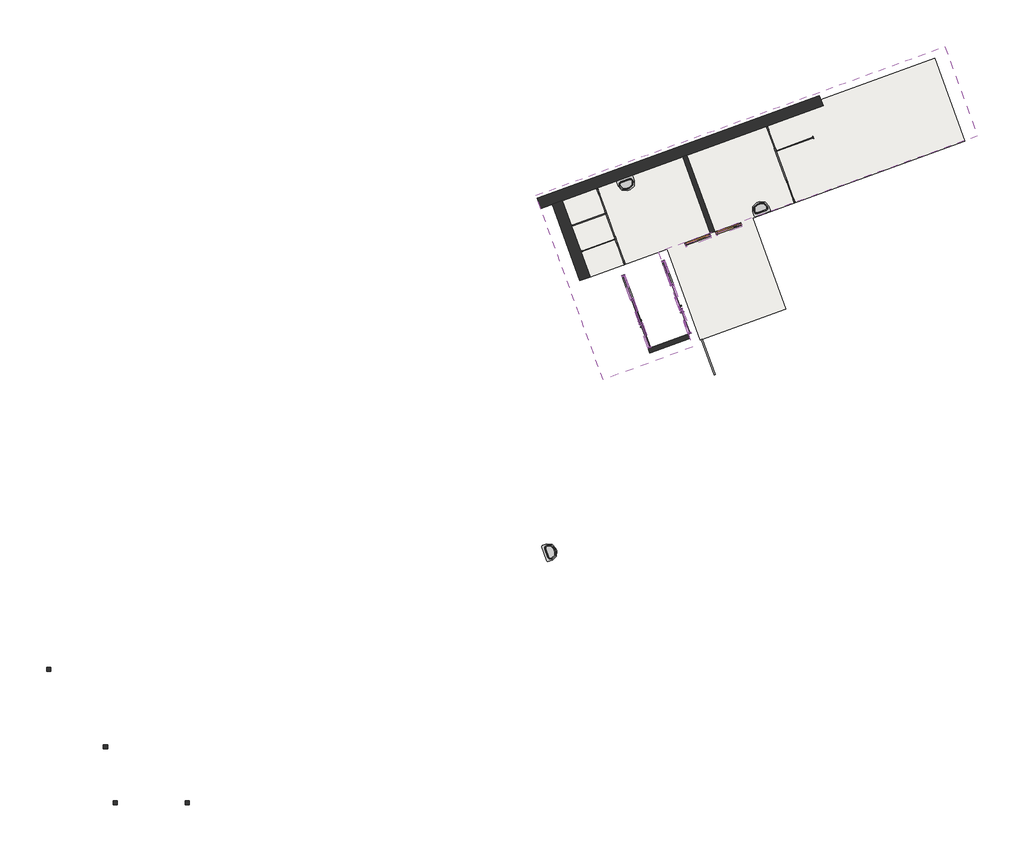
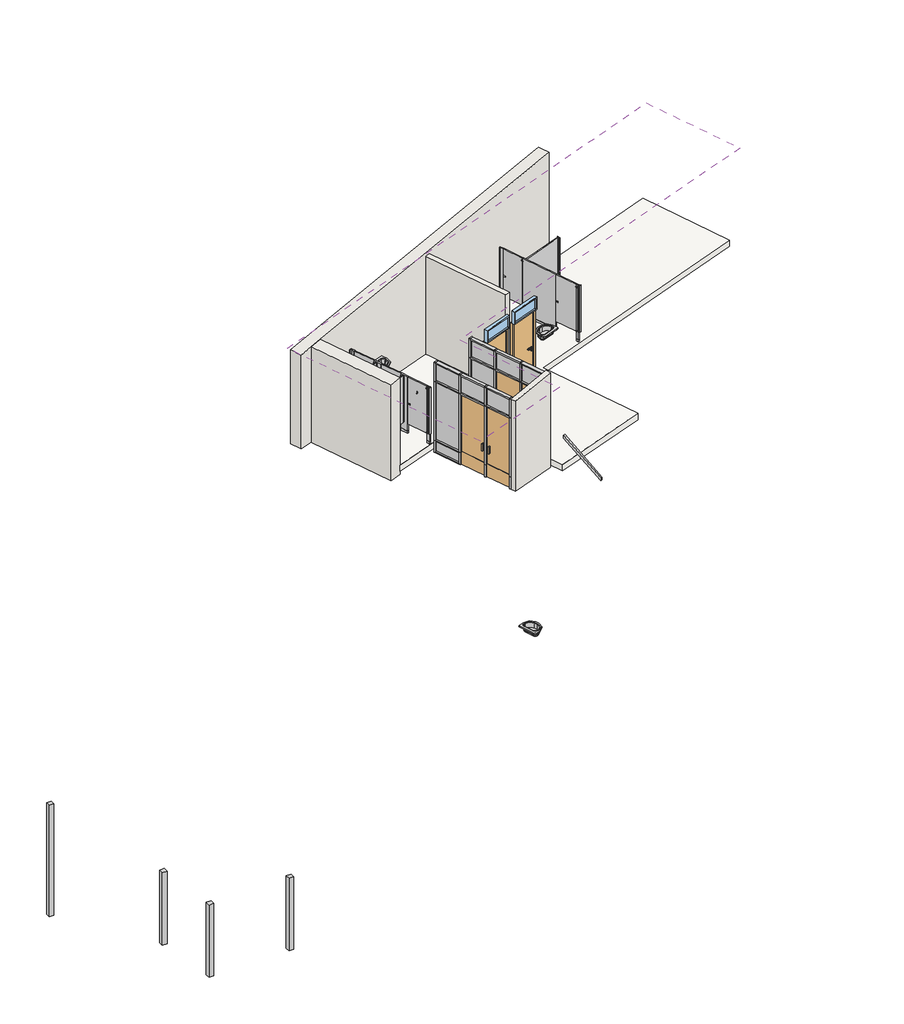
# One storey, incomplete: 40 members, 10 plates, 7 doors, 4 columns, 4 walls, 3 flow terminals, 2 proxies, 2 windows, 3 other elements.
"""IFC4 building model written with IfcOpenShell, lengths in millimetres."""

from ifc_helpers import new_model, si_unit, frame, origin, place, context, project, spatial, polyline, outline, extrude, faceted_brep, transform, mapped, element, save
from components import specialty_equipment_733fec99, specialty_equipment_17d1b64b, column_140x140_54508cc6, door_c31702a9, door_9x21_0ca1f15c, door_9x21_3038e881, m_curtain_wall_sgl_glass_m_curtain_wall_sgl_glass_a16a0dba, m_curtain_wall_sgl_glass_m_curtain_wall_sgl_glass_40f2f05e, flow_terminal_56x42_ddd7e4ea, flow_terminal_56x42_dcce3b80, flow_terminal_56x42_63f2d4de, rectangular_mullion_100x40_3ba3ef1f, rectangular_mullion_100x40_3ba05631, rectangular_mullion_100x40_46924800, rectangular_mullion_100x40_bf89f555, rectangular_mullion_100x40_653e2f27, rectangular_mullion_100x40_58357604, rectangular_mullion_100x40_4d7d8277, rectangular_mullion_100x40_423daf98, rectangular_mullion_100x40_f53edade, rectangular_mullion_100x40_9dc0828d, system_panel_glazed_4b31ab0a, system_panel_glazed_92b3d4ac, system_panel_glazed_41f18cd1, system_panel_solid_5c81e5c3, railing_1_5b98b4d4, window_9x4_a0d7365a, window_9x4_84f952e1

model = new_model("IFC4")

# Units and contexts
model_context = context("Model", 3, world=origin())
ifc_project = project(units=[si_unit("LENGTHUNIT", "METRE", prefix="MILLI")], contexts=[model_context])

# Site, building, storey
site = spatial("IfcSite", under=ifc_project)
building = spatial("IfcBuilding", under=site)
storey = spatial("IfcBuildingStorey", under=building, Name="0.9 inngangsparti tilbygg", Elevation=2430.0)

# Proxies
placement = place(None, origin())
specialty_equipment_shape = specialty_equipment_733fec99(model_context)
element("IfcBuildingElementProxy", 1, Name="Partition-Floor_Braced-Bradley_Corp-Enamel-ADA-N_Stalls : ADA (optional) + n Standard Stalls", ObjectType="Partition-Floor_Braced-Bradley_Corp-Enamel-ADA-N_Stalls : ADA (optional) + n Standard Stalls", at=placement, inside=storey, context=model_context, shape_type="MappedRepresentation", body=[
    mapped(specialty_equipment_shape, transform((13894.1298047, 28006.5902282, 2430.0), x_axis=(-0.3420201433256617, 0.939692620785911, 0.0), y_axis=(-0.939692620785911, -0.3420201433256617, 0.0), z_axis=(0.0, 0.0, 1.0))),
])
specialty_equipment_2_shape = specialty_equipment_17d1b64b(model_context)
element("IfcBuildingElementProxy", 2, Name="Partition-Floor_Braced-Bradley_Corp-Enamel-ADA-N_Stalls : ADA (optional) + n Standard Stalls", ObjectType="Partition-Floor_Braced-Bradley_Corp-Enamel-ADA-N_Stalls : ADA (optional) + n Standard Stalls", at=placement, inside=storey, context=model_context, shape_type="MappedRepresentation", body=[
    mapped(specialty_equipment_2_shape, transform((21863.7403131, 30907.2912319, 2430.0), x_axis=(-0.34202014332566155, 0.939692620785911, 0.0), y_axis=(-0.939692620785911, -0.34202014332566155, 0.0), z_axis=(0.0, 0.0, 1.0))),
])

# Columns
element("IfcColumn", 3, ObjectType="Søyle Tre Limtre : 140x140", at=placement, inside=storey, context=model_context, shape_type="SweptSolid", body=[
    extrude(outline(polyline([(-2073.5774456, 12628.8643675), (-2213.5774456, 12628.8643675), (-2213.5774456, 12768.8643675), (-2073.5774456, 12768.8643675), (-2073.5774456, 12628.8643675)])), frame((0.0, 0.0, 2430.0), z_axis=(0.0, 0.0, 1.0), x_axis=(1.0, 0.0, 0.0)), (0.0, 0.0, 1.0), 2270.0),
])
element("IfcColumn", 4, ObjectType="Søyle Tre Limtre : 140x140", at=placement, inside=storey, context=model_context, shape_type="SweptSolid", body=[
    extrude(outline(polyline([(620.1430175, 10778.5474976), (480.1430175, 10778.5474976), (480.1430175, 10918.5474976), (620.1430175, 10918.5474976), (620.1430175, 10778.5474976)])), frame((0.0, 0.0, 2430.0), z_axis=(0.0, 0.0, 1.0), x_axis=(1.0, 0.0, 0.0)), (0.0, 0.0, 1.0), 2270.0),
])
element("IfcColumn", 5, ObjectType="Søyle Tre Limtre : 140x140", at=placement, inside=storey, context=model_context, shape_type="SweptSolid", body=[
    extrude(outline(polyline([(-3949.7130781, 15180.0), (-4089.7130781, 15180.0), (-4089.7130781, 15320.0), (-3949.7130781, 15320.0), (-3949.7130781, 15180.0)])), frame((0.0, 0.0, 2430.0), z_axis=(0.0, 0.0, 1.0), x_axis=(1.0, 0.0, 0.0)), (0.0, 0.0, 1.0), 3490.0),
])
column_140x140_shape = column_140x140_54508cc6(model_context)
element("IfcColumn", 6, ObjectType="Søyle Tre Limtre : 140x140", at=placement, inside=storey, context=model_context, shape_type="MappedRepresentation", body=[
    mapped(column_140x140_shape, transform((-1817.1065315, 10850.8618967, 0.0), x_axis=(1.0, 0.0, 0.0), y_axis=(0.0, 1.0, 0.0), z_axis=(0.0, 0.0, 1.0))),
])

# Doors
door_shape = door_c31702a9(model_context)
element("IfcDoor", 7, ObjectType="brystning ytterdør : brystning ytterdør", at=placement, inside=storey, context=model_context, shape_type="MappedRepresentation", body=[
    mapped(door_shape, transform((0.0, 0.0, 0.0), x_axis=(1.0, 0.0, 0.0), y_axis=(0.0, 1.0, 0.0), z_axis=(0.0, 0.0, 1.0))),
])
door_9x21_shape = door_9x21_0ca1f15c(model_context)
element("IfcDoor", 8, ObjectType="Innerdør Slett (Diplomat) : 9x21", at=placement, inside=storey, context=model_context, shape_type="MappedRepresentation", body=[
    mapped(door_9x21_shape, transform((17454.657411, 29346.0414371, 2430.0), x_axis=(-0.9396926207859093, -0.3420201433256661, 0.0), y_axis=(0.3420201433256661, -0.9396926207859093, 0.0), z_axis=(0.0, 0.0, 1.0))),
])
door_9x21_2_shape = door_9x21_3038e881(model_context)
element("IfcDoor", 9, ObjectType="Innerdør Slett (Diplomat) : 9x21", at=placement, inside=storey, context=model_context, shape_type="MappedRepresentation", body=[
    mapped(door_9x21_2_shape, transform((18369.2045469, 29678.9093724, 2430.0), x_axis=(0.9396926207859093, 0.3420201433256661, 0.0), y_axis=(-0.3420201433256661, 0.9396926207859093, 0.0), z_axis=(0.0, 0.0, 1.0))),
])
m_curtain_wall_sgl_glass_m_curtain_wall_sgl_glass_shape = m_curtain_wall_sgl_glass_m_curtain_wall_sgl_glass_a16a0dba(model_context)
element("IfcDoor", 10, ObjectType="M_Curtain Wall Sgl Glass : M_Curtain Wall Sgl Glass", at=placement, inside=storey, context=model_context, shape_type="MappedRepresentation", body=[
    mapped(m_curtain_wall_sgl_glass_m_curtain_wall_sgl_glass_shape, transform((15640.0160225, 26252.1461461, 2430.0), x_axis=(0.3420201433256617, -0.939692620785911, 0.0), y_axis=(0.939692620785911, 0.3420201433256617, 0.0), z_axis=(0.0, 0.0, 1.0))),
])
element("IfcDoor", 11, ObjectType="M_Curtain Wall Sgl Glass : M_Curtain Wall Sgl Glass", at=placement, inside=storey, context=model_context, shape_type="MappedRepresentation", body=[
    mapped(m_curtain_wall_sgl_glass_m_curtain_wall_sgl_glass_shape, transform((16955.5856916, 26730.9743467, 2430.0), x_axis=(0.3420201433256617, -0.939692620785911, 0.0), y_axis=(0.939692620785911, 0.3420201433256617, 0.0), z_axis=(0.0, 0.0, 1.0))),
])
m_curtain_wall_sgl_glass_m_curtain_wall_sgl_glass_2_shape = m_curtain_wall_sgl_glass_m_curtain_wall_sgl_glass_40f2f05e(model_context)
element("IfcDoor", 12, ObjectType="M_Curtain Wall Sgl Glass : M_Curtain Wall Sgl Glass", at=placement, inside=storey, context=model_context, shape_type="MappedRepresentation", body=[
    mapped(m_curtain_wall_sgl_glass_m_curtain_wall_sgl_glass_2_shape, transform((15350.4389678, 27047.752565, 2430.0), x_axis=(-0.3420201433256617, 0.939692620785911, 0.0), y_axis=(-0.939692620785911, -0.3420201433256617, 0.0), z_axis=(0.0, 0.0, 1.0))),
])
element("IfcDoor", 13, ObjectType="M_Curtain Wall Sgl Glass : M_Curtain Wall Sgl Glass", at=placement, inside=storey, context=model_context, shape_type="MappedRepresentation", body=[
    mapped(m_curtain_wall_sgl_glass_m_curtain_wall_sgl_glass_2_shape, transform((16666.0086369, 27526.5807656, 2430.0), x_axis=(-0.3420201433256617, 0.939692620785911, 0.0), y_axis=(-0.939692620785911, -0.3420201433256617, 0.0), z_axis=(0.0, 0.0, 1.0))),
])

# Flow terminals
flow_terminal_56x42_shape = flow_terminal_56x42_ddd7e4ea(model_context)
element("IfcFlowTerminal", 14, ObjectType="Sanitær Servant Løs : 56x42", at=placement, inside=storey, context=model_context, shape_type="MappedRepresentation", body=[
    mapped(flow_terminal_56x42_shape, transform((12224.3529657, 19146.4368633, 2430.0), x_axis=(0.34202014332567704, -0.9396926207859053, 0.0), y_axis=(0.9396926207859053, 0.34202014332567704, 0.0), z_axis=(0.0, 0.0, 1.0))),
])
flow_terminal_56x42_2_shape = flow_terminal_56x42_dcce3b80(model_context)
element("IfcFlowTerminal", 15, ObjectType="Sanitær Servant Løs : 56x42", at=placement, inside=storey, context=model_context, shape_type="MappedRepresentation", body=[
    mapped(flow_terminal_56x42_2_shape, transform((14996.9284998, 31659.9972535, 2430.0), x_axis=(-0.9396926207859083, -0.342020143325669, 0.0), y_axis=(0.342020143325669, -0.9396926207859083, 0.0), z_axis=(0.0, 0.0, 1.0))),
])
flow_terminal_56x42_3_shape = flow_terminal_56x42_63f2d4de(model_context)
element("IfcFlowTerminal", 16, ObjectType="Sanitær Servant Løs : 56x42", at=placement, inside=storey, context=model_context, shape_type="MappedRepresentation", body=[
    mapped(flow_terminal_56x42_3_shape, transform((19452.7549195, 30073.2894553, 2430.0), x_axis=(0.9396926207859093, 0.3420201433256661, 0.0), y_axis=(-0.3420201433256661, 0.9396926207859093, 0.0), z_axis=(0.0, 0.0, 1.0))),
])

# Members
rectangular_mullion_100x40_shape = rectangular_mullion_100x40_3ba3ef1f(model_context)
element("IfcMember", 17, ObjectType="Rectangular Mullion : 100x40", at=placement, inside=storey, context=model_context, shape_type="MappedRepresentation", body=[
    mapped(rectangular_mullion_100x40_shape, transform((14924.6238894, 28217.6698779, 5254.5549543), x_axis=(0.0, 0.0, 1.0), y_axis=(0.939692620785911, 0.3420201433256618, 0.0), z_axis=(-0.3420201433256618, 0.939692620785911, 0.0))),
])
element("IfcMember", 18, ObjectType="Rectangular Mullion : 100x40", at=placement, inside=storey, context=model_context, shape_type="MappedRepresentation", body=[
    mapped(rectangular_mullion_100x40_shape, transform((15503.7779988, 26626.45704, 5254.5549543), x_axis=(0.0, 0.0, 1.0), y_axis=(0.9396926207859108, 0.34202014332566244, 0.0), z_axis=(-0.3420201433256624, 0.9396926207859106, 0.0))),
])
element("IfcMember", 19, ObjectType="Rectangular Mullion : 100x40", at=placement, inside=storey, context=model_context, shape_type="MappedRepresentation", body=[
    mapped(rectangular_mullion_100x40_shape, transform((16240.1935585, 28696.4980785, 5254.5549543), x_axis=(0.0, 0.0, 1.0), y_axis=(0.939692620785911, 0.3420201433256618, 0.0), z_axis=(-0.3420201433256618, 0.939692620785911, 0.0))),
])
element("IfcMember", 20, ObjectType="Rectangular Mullion : 100x40", at=placement, inside=storey, context=model_context, shape_type="MappedRepresentation", body=[
    mapped(rectangular_mullion_100x40_shape, transform((16819.3476679, 27105.2852407, 5254.5549543), x_axis=(0.0, 0.0, 1.0), y_axis=(0.9396926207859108, 0.34202014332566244, 0.0), z_axis=(-0.3420201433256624, 0.9396926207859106, 0.0))),
])
element("IfcMember", 21, ObjectType="Rectangular Mullion : 100x40", at=placement, inside=storey, context=model_context, shape_type="MappedRepresentation", body=[
    mapped(rectangular_mullion_100x40_shape, transform((15197.0999369, 27469.04809, 2430.0), x_axis=(0.0, 0.0, -1.0), y_axis=(0.939692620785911, 0.3420201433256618, 0.0), z_axis=(0.3420201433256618, -0.939692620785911, 0.0))),
])
element("IfcMember", 22, ObjectType="Rectangular Mullion : 100x40", at=placement, inside=storey, context=model_context, shape_type="MappedRepresentation", body=[
    mapped(rectangular_mullion_100x40_shape, transform((16512.669606, 27947.8762906, 2430.0), x_axis=(0.0, 0.0, -1.0), y_axis=(0.939692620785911, 0.3420201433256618, 0.0), z_axis=(0.3420201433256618, -0.939692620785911, 0.0))),
])
rectangular_mullion_100x40_2_shape = rectangular_mullion_100x40_3ba05631(model_context)
element("IfcMember", 23, ObjectType="Rectangular Mullion : 100x40", at=placement, inside=storey, context=model_context, shape_type="MappedRepresentation", body=[
    mapped(rectangular_mullion_100x40_2_shape, transform((15210.7807426, 27431.4603851, 5254.5549543), x_axis=(0.0, 0.0, 1.0), y_axis=(0.939692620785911, 0.3420201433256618, 0.0), z_axis=(-0.3420201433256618, 0.939692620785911, 0.0))),
])
element("IfcMember", 24, ObjectType="Rectangular Mullion : 100x40", at=placement, inside=storey, context=model_context, shape_type="MappedRepresentation", body=[
    mapped(rectangular_mullion_100x40_2_shape, transform((16526.3504117, 27910.2885858, 5254.5549543), x_axis=(0.0, 0.0, 1.0), y_axis=(0.939692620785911, 0.3420201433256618, 0.0), z_axis=(-0.3420201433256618, 0.939692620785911, 0.0))),
])
rectangular_mullion_100x40_3_shape = rectangular_mullion_100x40_46924800(model_context)
element("IfcMember", 25, ObjectType="Rectangular Mullion : 100x40", at=placement, inside=storey, context=model_context, shape_type="MappedRepresentation", body=[
    mapped(rectangular_mullion_100x40_3_shape, transform((15503.7779988, 26626.45704, 4654.5549543), x_axis=(0.0, 0.0, 1.0), y_axis=(0.9396926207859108, 0.34202014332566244, 0.0), z_axis=(-0.3420201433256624, 0.9396926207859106, 0.0))),
])
element("IfcMember", 26, ObjectType="Rectangular Mullion : 100x40", at=placement, inside=storey, context=model_context, shape_type="MappedRepresentation", body=[
    mapped(rectangular_mullion_100x40_3_shape, transform((14924.6238894, 28217.6698779, 4654.5549543), x_axis=(0.0, 0.0, 1.0), y_axis=(0.939692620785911, 0.3420201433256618, 0.0), z_axis=(-0.3420201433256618, 0.939692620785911, 0.0))),
])
element("IfcMember", 27, ObjectType="Rectangular Mullion : 100x40", at=placement, inside=storey, context=model_context, shape_type="MappedRepresentation", body=[
    mapped(rectangular_mullion_100x40_3_shape, transform((14924.6238894, 28217.6698779, 2810.0), x_axis=(0.0, 0.0, 1.0), y_axis=(0.939692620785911, 0.3420201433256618, 0.0), z_axis=(-0.3420201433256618, 0.939692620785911, 0.0))),
])
element("IfcMember", 28, ObjectType="Rectangular Mullion : 100x40", at=placement, inside=storey, context=model_context, shape_type="MappedRepresentation", body=[
    mapped(rectangular_mullion_100x40_3_shape, transform((16819.3476679, 27105.2852407, 4654.5549543), x_axis=(0.0, 0.0, 1.0), y_axis=(0.9396926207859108, 0.34202014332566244, 0.0), z_axis=(-0.3420201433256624, 0.9396926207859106, 0.0))),
])
element("IfcMember", 29, ObjectType="Rectangular Mullion : 100x40", at=placement, inside=storey, context=model_context, shape_type="MappedRepresentation", body=[
    mapped(rectangular_mullion_100x40_3_shape, transform((16240.1935585, 28696.4980785, 4654.5549543), x_axis=(0.0, 0.0, 1.0), y_axis=(0.939692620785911, 0.3420201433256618, 0.0), z_axis=(-0.3420201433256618, 0.939692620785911, 0.0))),
])
element("IfcMember", 30, ObjectType="Rectangular Mullion : 100x40", at=placement, inside=storey, context=model_context, shape_type="MappedRepresentation", body=[
    mapped(rectangular_mullion_100x40_3_shape, transform((16240.1935585, 28696.4980785, 2810.0), x_axis=(0.0, 0.0, 1.0), y_axis=(0.939692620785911, 0.3420201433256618, 0.0), z_axis=(-0.3420201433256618, 0.939692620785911, 0.0))),
])
rectangular_mullion_100x40_4_shape = rectangular_mullion_100x40_bf89f555(model_context)
element("IfcMember", 31, ObjectType="Rectangular Mullion : 100x40", at=placement, inside=storey, context=model_context, shape_type="MappedRepresentation", body=[
    mapped(rectangular_mullion_100x40_4_shape, transform((15210.7807426, 27431.4603851, 4654.5549543), x_axis=(0.0, 0.0, 1.0), y_axis=(0.939692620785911, 0.3420201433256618, 0.0), z_axis=(-0.3420201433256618, 0.939692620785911, 0.0))),
])
element("IfcMember", 32, ObjectType="Rectangular Mullion : 100x40", at=placement, inside=storey, context=model_context, shape_type="MappedRepresentation", body=[
    mapped(rectangular_mullion_100x40_4_shape, transform((16526.3504117, 27910.2885858, 4654.5549543), x_axis=(0.0, 0.0, 1.0), y_axis=(0.939692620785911, 0.3420201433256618, 0.0), z_axis=(-0.3420201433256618, 0.939692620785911, 0.0))),
])
rectangular_mullion_100x40_5_shape = rectangular_mullion_100x40_653e2f27(model_context)
element("IfcMember", 33, ObjectType="Rectangular Mullion : 100x40", at=placement, inside=storey, context=model_context, shape_type="MappedRepresentation", body=[
    mapped(rectangular_mullion_100x40_5_shape, transform((15496.9375959, 26645.2508924, 4654.5549543), x_axis=(-0.3420201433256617, 0.939692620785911, 0.0), y_axis=(0.939692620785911, 0.3420201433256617, 0.0), z_axis=(0.0, 0.0, -1.0))),
])
element("IfcMember", 34, ObjectType="Rectangular Mullion : 100x40", at=placement, inside=storey, context=model_context, shape_type="MappedRepresentation", body=[
    mapped(rectangular_mullion_100x40_5_shape, transform((15203.9403398, 27450.2542376, 4654.5549543), x_axis=(-0.3420201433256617, 0.939692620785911, 0.0), y_axis=(0.939692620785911, 0.3420201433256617, 0.0), z_axis=(0.0, 0.0, -1.0))),
])
element("IfcMember", 35, ObjectType="Rectangular Mullion : 100x40", at=placement, inside=storey, context=model_context, shape_type="MappedRepresentation", body=[
    mapped(rectangular_mullion_100x40_5_shape, transform((16812.507265, 27124.0790931, 4654.5549543), x_axis=(-0.3420201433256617, 0.939692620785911, 0.0), y_axis=(0.939692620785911, 0.3420201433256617, 0.0), z_axis=(0.0, 0.0, -1.0))),
])
element("IfcMember", 36, ObjectType="Rectangular Mullion : 100x40", at=placement, inside=storey, context=model_context, shape_type="MappedRepresentation", body=[
    mapped(rectangular_mullion_100x40_5_shape, transform((16519.5100089, 27929.0824382, 4654.5549543), x_axis=(-0.3420201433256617, 0.939692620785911, 0.0), y_axis=(0.939692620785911, 0.3420201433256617, 0.0), z_axis=(0.0, 0.0, -1.0))),
])
rectangular_mullion_100x40_6_shape = rectangular_mullion_100x40_58357604(model_context)
element("IfcMember", 37, ObjectType="Rectangular Mullion : 100x40", at=placement, inside=storey, context=model_context, shape_type="MappedRepresentation", body=[
    mapped(rectangular_mullion_100x40_6_shape, transform((15789.934852, 25840.2475473, 5254.5549543), x_axis=(0.3420201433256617, -0.939692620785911, 0.0), y_axis=(0.939692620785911, 0.3420201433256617, 0.0), z_axis=(0.0, 0.0, 1.0))),
])
element("IfcMember", 38, ObjectType="Rectangular Mullion : 100x40", at=placement, inside=storey, context=model_context, shape_type="MappedRepresentation", body=[
    mapped(rectangular_mullion_100x40_6_shape, transform((17105.5045211, 26319.0757479, 5254.5549543), x_axis=(0.3420201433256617, -0.939692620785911, 0.0), y_axis=(0.939692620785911, 0.3420201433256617, 0.0), z_axis=(0.0, 0.0, 1.0))),
])
element("IfcMember", 39, ObjectType="Rectangular Mullion : 100x40", at=placement, inside=storey, context=model_context, shape_type="MappedRepresentation", body=[
    mapped(rectangular_mullion_100x40_6_shape, transform((14910.9430837, 28255.2575827, 4654.5549543), x_axis=(-0.3420201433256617, 0.939692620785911, 0.0), y_axis=(0.939692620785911, 0.3420201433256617, 0.0), z_axis=(0.0, 0.0, -1.0))),
])
element("IfcMember", 40, ObjectType="Rectangular Mullion : 100x40", at=placement, inside=storey, context=model_context, shape_type="MappedRepresentation", body=[
    mapped(rectangular_mullion_100x40_6_shape, transform((16226.5127528, 28734.0857834, 4654.5549543), x_axis=(-0.3420201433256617, 0.939692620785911, 0.0), y_axis=(0.939692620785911, 0.3420201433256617, 0.0), z_axis=(0.0, 0.0, -1.0))),
])
rectangular_mullion_100x40_7_shape = rectangular_mullion_100x40_4d7d8277(model_context)
element("IfcMember", 41, ObjectType="Rectangular Mullion : 100x40", at=placement, inside=storey, context=model_context, shape_type="MappedRepresentation", body=[
    mapped(rectangular_mullion_100x40_7_shape, transform((15203.9403398, 27450.2542376, 2430.0), x_axis=(-0.3420201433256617, 0.939692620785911, 0.0), y_axis=(0.939692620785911, 0.3420201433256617, 0.0), z_axis=(0.0, 0.0, -1.0))),
])
element("IfcMember", 42, ObjectType="Rectangular Mullion : 100x40", at=placement, inside=storey, context=model_context, shape_type="MappedRepresentation", body=[
    mapped(rectangular_mullion_100x40_7_shape, transform((16519.5100089, 27929.0824382, 2430.0), x_axis=(-0.3420201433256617, 0.939692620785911, 0.0), y_axis=(0.939692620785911, 0.3420201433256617, 0.0), z_axis=(0.0, 0.0, -1.0))),
])
rectangular_mullion_100x40_8_shape = rectangular_mullion_100x40_423daf98(model_context)
element("IfcMember", 43, ObjectType="Rectangular Mullion : 100x40", at=placement, inside=storey, context=model_context, shape_type="MappedRepresentation", body=[
    mapped(rectangular_mullion_100x40_8_shape, transform((15203.9403398, 27450.2542376, 2810.0), x_axis=(-0.3420201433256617, 0.939692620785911, 0.0), y_axis=(0.939692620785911, 0.3420201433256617, 0.0), z_axis=(0.0, 0.0, -1.0))),
])
element("IfcMember", 44, ObjectType="Rectangular Mullion : 100x40", at=placement, inside=storey, context=model_context, shape_type="MappedRepresentation", body=[
    mapped(rectangular_mullion_100x40_8_shape, transform((16519.5100089, 27929.0824382, 2810.0), x_axis=(-0.3420201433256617, 0.939692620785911, 0.0), y_axis=(0.939692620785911, 0.3420201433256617, 0.0), z_axis=(0.0, 0.0, -1.0))),
])
rectangular_mullion_100x40_9_shape = rectangular_mullion_100x40_f53edade(model_context)
element("IfcMember", 45, ObjectType="Rectangular Mullion : 100x40", at=placement, inside=storey, context=model_context, shape_type="MappedRepresentation", body=[
    mapped(rectangular_mullion_100x40_9_shape, transform((14910.9430837, 28255.2575827, 2430.0), x_axis=(-0.3420201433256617, 0.939692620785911, 0.0), y_axis=(0.939692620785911, 0.3420201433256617, 0.0), z_axis=(0.0, 0.0, -1.0))),
])
element("IfcMember", 46, ObjectType="Rectangular Mullion : 100x40", at=placement, inside=storey, context=model_context, shape_type="MappedRepresentation", body=[
    mapped(rectangular_mullion_100x40_9_shape, transform((16226.5127528, 28734.0857834, 2430.0), x_axis=(-0.3420201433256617, 0.939692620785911, 0.0), y_axis=(0.939692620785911, 0.3420201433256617, 0.0), z_axis=(0.0, 0.0, -1.0))),
])
rectangular_mullion_100x40_10_shape = rectangular_mullion_100x40_9dc0828d(model_context)
element("IfcMember", 47, ObjectType="Rectangular Mullion : 100x40", at=placement, inside=storey, context=model_context, shape_type="MappedRepresentation", body=[
    mapped(rectangular_mullion_100x40_10_shape, transform((14910.9430837, 28255.2575827, 2810.0), x_axis=(-0.3420201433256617, 0.939692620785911, 0.0), y_axis=(0.939692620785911, 0.3420201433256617, 0.0), z_axis=(0.0, 0.0, -1.0))),
])
element("IfcMember", 48, ObjectType="Rectangular Mullion : 100x40", at=placement, inside=storey, context=model_context, shape_type="MappedRepresentation", body=[
    mapped(rectangular_mullion_100x40_10_shape, transform((16226.5127528, 28734.0857834, 2810.0), x_axis=(-0.3420201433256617, 0.939692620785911, 0.0), y_axis=(0.939692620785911, 0.3420201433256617, 0.0), z_axis=(0.0, 0.0, -1.0))),
])
element("IfcMember", 49, ObjectType="Rectangular Mullion : 100x40", at=placement, inside=storey, context=model_context, shape_type="MappedRepresentation", body=[
    mapped(rectangular_mullion_100x40_7_shape, transform((15496.9375959, 26645.2508924, 2430.0), x_axis=(-0.3420201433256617, 0.939692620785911, 0.0), y_axis=(0.939692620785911, 0.3420201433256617, 0.0), z_axis=(0.0, 0.0, -1.0))),
])
element("IfcMember", 50, ObjectType="Rectangular Mullion : 100x40", at=placement, inside=storey, context=model_context, shape_type="MappedRepresentation", body=[
    mapped(rectangular_mullion_100x40_7_shape, transform((16812.507265, 27124.0790931, 2430.0), x_axis=(-0.3420201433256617, 0.939692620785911, 0.0), y_axis=(0.939692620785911, 0.3420201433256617, 0.0), z_axis=(0.0, 0.0, -1.0))),
])
element("IfcMember", 51, ObjectType="Rectangular Mullion : 100x40", at=placement, inside=storey, context=model_context, shape_type="MappedRepresentation", body=[
    mapped(rectangular_mullion_100x40_8_shape, transform((15496.9375959, 26645.2508924, 2810.0), x_axis=(-0.3420201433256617, 0.939692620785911, 0.0), y_axis=(0.939692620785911, 0.3420201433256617, 0.0), z_axis=(0.0, 0.0, -1.0))),
])
element("IfcMember", 52, ObjectType="Rectangular Mullion : 100x40", at=placement, inside=storey, context=model_context, shape_type="MappedRepresentation", body=[
    mapped(rectangular_mullion_100x40_8_shape, transform((16812.507265, 27124.0790931, 2810.0), x_axis=(-0.3420201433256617, 0.939692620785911, 0.0), y_axis=(0.939692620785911, 0.3420201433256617, 0.0), z_axis=(0.0, 0.0, -1.0))),
])
element("IfcMember", 53, ObjectType="Rectangular Mullion : 100x40", at=placement, inside=storey, context=model_context, shape_type="MappedRepresentation", body=[
    mapped(rectangular_mullion_100x40_10_shape, transform((15789.934852, 25840.2475473, 4654.5549543), x_axis=(0.3420201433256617, -0.939692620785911, 0.0), y_axis=(0.939692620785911, 0.3420201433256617, 0.0), z_axis=(0.0, 0.0, 1.0))),
])
element("IfcMember", 54, ObjectType="Rectangular Mullion : 100x40", at=placement, inside=storey, context=model_context, shape_type="MappedRepresentation", body=[
    mapped(rectangular_mullion_100x40_10_shape, transform((17105.5045211, 26319.0757479, 4654.5549543), x_axis=(0.3420201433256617, -0.939692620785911, 0.0), y_axis=(0.939692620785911, 0.3420201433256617, 0.0), z_axis=(0.0, 0.0, 1.0))),
])
element("IfcMember", 55, ObjectType="Rectangular Mullion : 100x40", at=placement, inside=storey, context=model_context, shape_type="MappedRepresentation", body=[
    mapped(rectangular_mullion_100x40_9_shape, transform((15789.934852, 25840.2475473, 2810.0), x_axis=(0.3420201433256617, -0.939692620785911, 0.0), y_axis=(0.939692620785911, 0.3420201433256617, 0.0), z_axis=(0.0, 0.0, 1.0))),
])
element("IfcMember", 56, ObjectType="Rectangular Mullion : 100x40", at=placement, inside=storey, context=model_context, shape_type="MappedRepresentation", body=[
    mapped(rectangular_mullion_100x40_9_shape, transform((17105.5045211, 26319.0757479, 2810.0), x_axis=(0.3420201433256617, -0.939692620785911, 0.0), y_axis=(0.939692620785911, 0.3420201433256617, 0.0), z_axis=(0.0, 0.0, 1.0))),
])

# Plates
system_panel_glazed_shape = system_panel_glazed_4b31ab0a(model_context)
element("IfcPlate", 57, ObjectType="System Panel : Glazed", at=placement, inside=storey, context=model_context, shape_type="MappedRepresentation", body=[
    mapped(system_panel_glazed_shape, transform((15640.0160225, 26252.1461461, 4674.5549543), x_axis=(-0.3420201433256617, 0.939692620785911, 0.0), y_axis=(-0.939692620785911, -0.3420201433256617, 0.0), z_axis=(0.0, 0.0, 1.0))),
])
element("IfcPlate", 58, ObjectType="System Panel : Glazed", at=placement, inside=storey, context=model_context, shape_type="MappedRepresentation", body=[
    mapped(system_panel_glazed_shape, transform((15060.8619131, 27843.3589839, 4674.5549543), x_axis=(-0.3420201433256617, 0.939692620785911, 0.0), y_axis=(-0.939692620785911, -0.3420201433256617, 0.0), z_axis=(0.0, 0.0, 1.0))),
])
element("IfcPlate", 59, ObjectType="System Panel : Glazed", at=placement, inside=storey, context=model_context, shape_type="MappedRepresentation", body=[
    mapped(system_panel_glazed_shape, transform((16955.5856916, 26730.9743467, 4674.5549543), x_axis=(-0.3420201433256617, 0.939692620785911, 0.0), y_axis=(-0.939692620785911, -0.3420201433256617, 0.0), z_axis=(0.0, 0.0, 1.0))),
])
element("IfcPlate", 60, ObjectType="System Panel : Glazed", at=placement, inside=storey, context=model_context, shape_type="MappedRepresentation", body=[
    mapped(system_panel_glazed_shape, transform((16376.4315822, 28322.1871846, 4674.5549543), x_axis=(-0.3420201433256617, 0.939692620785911, 0.0), y_axis=(-0.939692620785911, -0.3420201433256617, 0.0), z_axis=(0.0, 0.0, 1.0))),
])
system_panel_glazed_2_shape = system_panel_glazed_92b3d4ac(model_context)
element("IfcPlate", 61, ObjectType="System Panel : Glazed", at=placement, inside=storey, context=model_context, shape_type="MappedRepresentation", body=[
    mapped(system_panel_glazed_2_shape, transform((15350.4389678, 27047.752565, 4674.5549543), x_axis=(-0.3420201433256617, 0.939692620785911, 0.0), y_axis=(-0.939692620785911, -0.3420201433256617, 0.0), z_axis=(0.0, 0.0, 1.0))),
])
element("IfcPlate", 62, ObjectType="System Panel : Glazed", at=placement, inside=storey, context=model_context, shape_type="MappedRepresentation", body=[
    mapped(system_panel_glazed_2_shape, transform((16666.0086369, 27526.5807656, 4674.5549543), x_axis=(-0.3420201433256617, 0.939692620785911, 0.0), y_axis=(-0.939692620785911, -0.3420201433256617, 0.0), z_axis=(0.0, 0.0, 1.0))),
])
system_panel_glazed_3_shape = system_panel_glazed_41f18cd1(model_context)
element("IfcPlate", 63, ObjectType="System Panel : Glazed", at=placement, inside=storey, context=model_context, shape_type="MappedRepresentation", body=[
    mapped(system_panel_glazed_3_shape, transform((15060.8619131, 27843.3589839, 2830.0), x_axis=(-0.3420201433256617, 0.939692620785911, 0.0), y_axis=(-0.939692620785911, -0.3420201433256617, 0.0), z_axis=(0.0, 0.0, 1.0))),
])
element("IfcPlate", 64, ObjectType="System Panel : Glazed", at=placement, inside=storey, context=model_context, shape_type="MappedRepresentation", body=[
    mapped(system_panel_glazed_3_shape, transform((16376.4315822, 28322.1871846, 2830.0), x_axis=(-0.3420201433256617, 0.939692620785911, 0.0), y_axis=(-0.939692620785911, -0.3420201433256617, 0.0), z_axis=(0.0, 0.0, 1.0))),
])
system_panel_solid_shape = system_panel_solid_5c81e5c3(model_context)
element("IfcPlate", 65, ObjectType="System Panel : Solid", at=placement, inside=storey, context=model_context, shape_type="MappedRepresentation", body=[
    mapped(system_panel_solid_shape, transform((15060.8619131, 27843.3589839, 2470.0), x_axis=(-0.3420201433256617, 0.939692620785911, 0.0), y_axis=(-0.939692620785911, -0.3420201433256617, 0.0), z_axis=(0.0, 0.0, 1.0))),
])
element("IfcPlate", 66, ObjectType="System Panel : Solid", at=placement, inside=storey, context=model_context, shape_type="MappedRepresentation", body=[
    mapped(system_panel_solid_shape, transform((16376.4315822, 28322.1871846, 2470.0), x_axis=(-0.3420201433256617, 0.939692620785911, 0.0), y_axis=(-0.939692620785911, -0.3420201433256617, 0.0), z_axis=(0.0, 0.0, 1.0))),
])

# Railing
railing_1_shape = railing_1_5b98b4d4(model_context)
element("IfcRailing", 67, ObjectType="Railing 1", at=placement, inside=storey, context=model_context, shape_type="MappedRepresentation", body=[
    mapped(railing_1_shape, transform((0.0, 0.0, 0.0), x_axis=(1.0, 0.0, 0.0), y_axis=(0.0, 1.0, 0.0), z_axis=(0.0, 0.0, 1.0))),
])

# Roof
element("IfcRoof", 68, ObjectType="Tretak 198 papptekking", at=placement, inside=storey, context=model_context, shape_type="Brep", body=[
    faceted_brep([(12038.8428315, 30883.4402517, 5070.0), (25514.0350135, 35788.009107, 6577.1947337), (26588.6623039, 32835.4948924, 6577.1947337), (16073.5018773, 29008.2894886, 5401.0783411), (17212.4289546, 25879.1130614, 5401.0783411), (14252.3971991, 24801.7496099, 5070.0), (25514.0350135, 35788.009107, 6835.6103616), (12038.8428315, 30883.4402517, 5328.4156278), (14252.3971991, 24801.7496099, 5328.4156278), (17212.4289546, 25879.1130614, 5659.4939689), (16073.5018773, 29008.2894886, 5659.4939689), (26588.6623039, 32835.4948924, 6835.6103616)], [[[0, 1, 2, 3, 4, 5]], [[6, 7, 8, 9, 10, 11]], [[5, 8, 7, 0]], [[7, 6, 1, 0]], [[10, 9, 4, 3]], [[11, 10, 3, 2]], [[6, 11, 2, 1]], [[9, 8, 5, 4]]]),
])

# Slab
element("IfcSlab", 69, ObjectType="Dekker Betong 200", at=placement, inside=storey, context=model_context, shape_type="SweptSolid", body=[
    extrude(outline(polyline([(21496.392882, 33844.698606), (21427.9888534, 34032.6371302), (25183.000566, 35399.3496229), (26174.8589817, 32674.2410226), (19177.9077273, 30127.5590354), (20265.5317831, 27139.3365013), (17446.4539207, 26113.2760713), (16358.829865, 29101.4986054), (13821.6597888, 28178.0442184), (12898.2054019, 30715.2142946), (21496.392882, 33844.698606)])), frame((0.0, 0.0, 2230.0), z_axis=(0.0, 0.0, 1.0), x_axis=(1.0, 0.0, 0.0)), (0.0, 0.0, 1.0), 200.0),
])

# Walls
element("IfcWall", 70, ObjectType="Yttervegg200 betong + 150 leca innv puss", at=placement, inside=storey, context=model_context, shape_type="Brep", body=[
    faceted_brep([(12196.8561377, 30449.3022609, 2130.0), (12572.733186, 30586.1103182, 2130.0), (12911.0225295, 30709.2375698, 2130.0), (21499.8130835, 33835.3016798, 2130.0), (21499.8130835, 33835.3016798, 6110.5319291), (21217.9052972, 33732.6956368, 6079.0006586), (20879.6159538, 33609.5683852, 6041.1631339), (12911.0225295, 30709.2375698, 5149.8792188), (12572.733186, 30586.1103182, 5112.0416941), (12196.8561377, 30449.3022609, 5070.0), (12073.7288861, 30787.5916043, 2130.0), (12073.7288861, 30787.5916043, 5070.0), (21376.6858319, 34173.5910233, 6110.5319291), (21376.6858319, 34173.5910233, 4100.0), (21376.6858319, 34173.5910233, 3600.0), (21376.6858319, 34173.5910233, 2130.0), (21414.9920879, 34068.3454497, 6110.5319291)], [[[0, 1, 2, 3, 4, 5, 6, 7, 8, 9]], [[10, 11, 12, 13, 14, 15]], [[3, 2, 1, 0, 10, 15]], [[0, 9, 11, 10]], [[9, 8, 7, 6, 5, 4, 16, 12, 11]], [[3, 15, 14, 13, 12, 16, 4]]]),
])
element("IfcWall", 71, ObjectType="Yttervegg Betong - Massiv 150mm", at=placement, inside=storey, context=model_context, shape_type="SweptSolid", body=[
    extrude(outline(polyline([(30.0000001, 0.0), (30.0000001, -2971.0783411), (-1369.9999999, -2823.9324117), (-1369.9999999, 0.0), (30.0000001, 0.0)])), frame((17081.6321329, 26150.7602434, 2430.0), z_axis=(-0.342020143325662, 0.9396926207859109, 0.0), x_axis=(0.9396926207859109, 0.342020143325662, 0.0)), (0.0, 0.0, 1.0), 150.0),
])
element("IfcWall", 72, ObjectType="Yttervegg200 betong + 150 leca innv puss", at=placement, inside=storey, context=model_context, shape_type="SweptSolid", body=[
    extrude(outline(polyline([(2850.0000001, 3912.0416941), (2850.0000001, 930.0), (2490.0, 930.0), (2490.0, 3949.8792188), (2850.0000001, 3912.0416941)])), frame((16167.4711394, 29042.491503, 1200.0), z_axis=(-0.34202014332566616, 0.9396926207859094, 0.0), x_axis=(-0.9396926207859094, -0.34202014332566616, 0.0)), (0.0, 0.0, 1.0), 2680.0),
])
element("IfcWall", 73, ObjectType="Yttervegg Betong - Massiv 150mm", at=placement, inside=storey, context=model_context, shape_type="SweptSolid", body=[
    extrude(outline(polyline([(17788.4409102, 29632.4762502), (16871.8269261, 32150.8524739), (17012.7808192, 32202.1554954), (17929.3948033, 29683.7792717), (17788.4409102, 29632.4762502)])), frame((0.0, 0.0, 2430.0), z_axis=(0.0, 0.0, 1.0), x_axis=(1.0, 0.0, 0.0)), (0.0, 0.0, 1.0), 3070.0),
])

# Windows
window_9x4_shape = window_9x4_a0d7365a(model_context)
element("IfcWindow", 74, ObjectType="Vindu FK : 9x4", at=placement, inside=storey, context=model_context, shape_type="MappedRepresentation", body=[
    mapped(window_9x4_shape, transform((18419.3649942, 29697.1662821, 3650.0), x_axis=(-0.9396926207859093, -0.3420201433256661, 0.0), y_axis=(0.3420201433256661, -0.9396926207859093, 0.0), z_axis=(0.0, 0.0, 1.0))),
])
window_9x4_2_shape = window_9x4_84f952e1(model_context)
element("IfcWindow", 75, ObjectType="Vindu FK : 9x4", at=placement, inside=storey, context=model_context, shape_type="MappedRepresentation", body=[
    mapped(window_9x4_2_shape, transform((17404.4969638, 29327.7845273, 3650.0), x_axis=(0.9396926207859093, 0.3420201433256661, 0.0), y_axis=(-0.3420201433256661, 0.9396926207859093, 0.0), z_axis=(0.0, 0.0, 1.0))),
])

save(model, "model.ifc")
